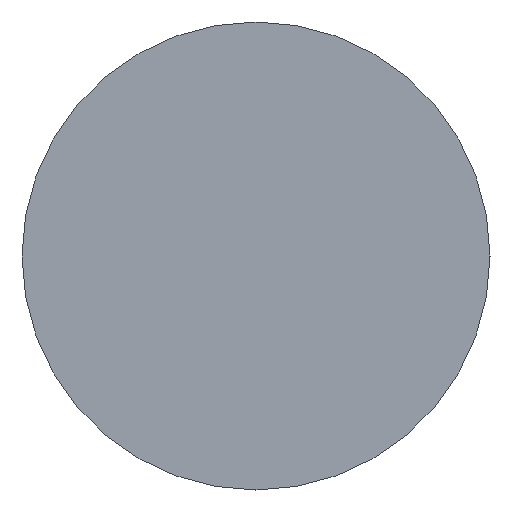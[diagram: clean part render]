
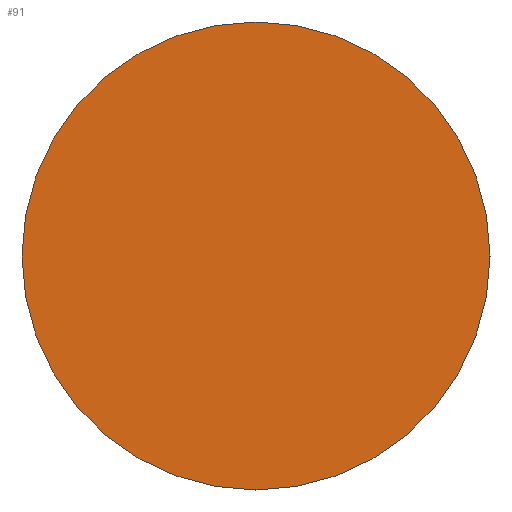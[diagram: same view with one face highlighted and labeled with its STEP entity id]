
A CAD part, front view. The second image highlights one B-rep face of the part: STEP entity #91.
In plain terms, the highlighted planar face has unit normal (0, -1, 0).
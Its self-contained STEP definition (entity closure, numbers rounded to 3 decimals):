
#91 = ADVANCED_FACE ( 'NONE', ( #722 ), #2944, .T. ) ;
#126 = DIRECTION ( 'NONE',  ( 0., -1., 0. ) ) ;
#435 = CARTESIAN_POINT ( 'NONE',  ( 34., -25., 0. ) ) ;
#469 = EDGE_LOOP ( 'NONE', ( #2343, #3042 ) ) ;
#660 = VERTEX_POINT ( 'NONE', #3535 ) ;
#722 = FACE_OUTER_BOUND ( 'NONE', #469, .T. ) ;
#1237 = EDGE_CURVE ( 'NONE', #660, #1429, #1257, .T. ) ;
#1257 = CIRCLE ( 'NONE', #1788, 34. ) ;
#1429 = VERTEX_POINT ( 'NONE', #3582 ) ;
#1560 = DIRECTION ( 'NONE',  ( 1., 0., 0. ) ) ;
#1788 = AXIS2_PLACEMENT_3D ( 'NONE', #3478, #3803, #1560 ) ;
#2058 = DIRECTION ( 'NONE',  ( 1., 0., 0. ) ) ;
#2343 = ORIENTED_EDGE ( 'NONE', *, *, #3781, .T. ) ;
#2624 = DIRECTION ( 'NONE',  ( 0., -1., 0. ) ) ;
#2747 = CIRCLE ( 'NONE', #4051, 34. ) ;
#2910 = AXIS2_PLACEMENT_3D ( 'NONE', #435, #126, #2921 ) ;
#2921 = DIRECTION ( 'NONE',  ( 1., 0., 0. ) ) ;
#2944 = PLANE ( 'NONE',  #2910 ) ;
#3042 = ORIENTED_EDGE ( 'NONE', *, *, #1237, .T. ) ;
#3478 = CARTESIAN_POINT ( 'NONE',  ( 0., -25., 0. ) ) ;
#3535 = CARTESIAN_POINT ( 'NONE',  ( -34., -25., 0. ) ) ;
#3582 = CARTESIAN_POINT ( 'NONE',  ( 34., -25., 0. ) ) ;
#3781 = EDGE_CURVE ( 'NONE', #1429, #660, #2747, .T. ) ;
#3803 = DIRECTION ( 'NONE',  ( 0., -1., 0. ) ) ;
#3855 = CARTESIAN_POINT ( 'NONE',  ( 0., -25., 0. ) ) ;
#4051 = AXIS2_PLACEMENT_3D ( 'NONE', #3855, #2624, #2058 ) ;
